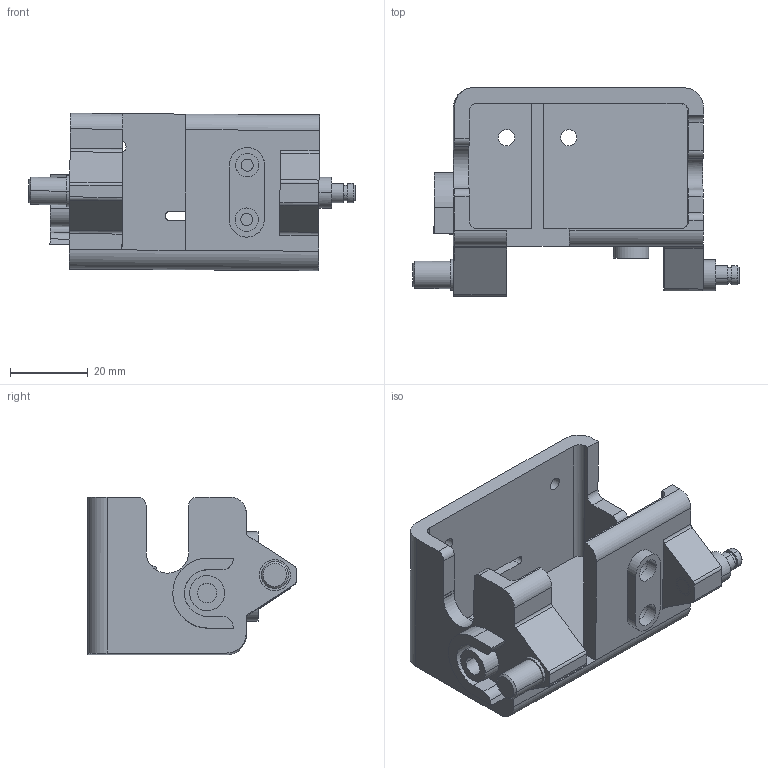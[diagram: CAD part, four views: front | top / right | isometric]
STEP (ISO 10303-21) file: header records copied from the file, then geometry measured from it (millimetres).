
FILE_DESCRIPTION(('CATIA V5 STEP Exchange'),'2;1');
FILE_NAME('G:\够快云库\系统集成开发部\1.部门成员\孙国\座椅控制阀\机加方案\LS42.50_S1 固定座.stp','2020-04-01T10:18:51+00:00',('none'),('none'),'CATIA Version 5 Release 21 GA (IN-10)','CATIA V5 STEP AP203','none');
FILE_SCHEMA(('CONFIG_CONTROL_DESIGN'));
Length unit declared in the file: millimetre
Products named in the file (1): SHT0010537-机加
Bounding box: 83.83 x 53.61 x 40.44 mm (x, y, z)
Volume: 39804.5 mm3; surface area: 20577.4 mm2
Topology: 3 solids, 3 shells, 431 faces, 1177 edges, 790 vertices
Faces by surface type: plane 333, cylinder 93, cone 5
Entity records: 14024 total; most frequent: CARTESIAN_POINT 3216, ORIENTED_EDGE 2354, DIRECTION 1929, EDGE_CURVE 1177, VECTOR 864, LINE 864, VERTEX_POINT 790, AXIS2_PLACEMENT_3D 666
